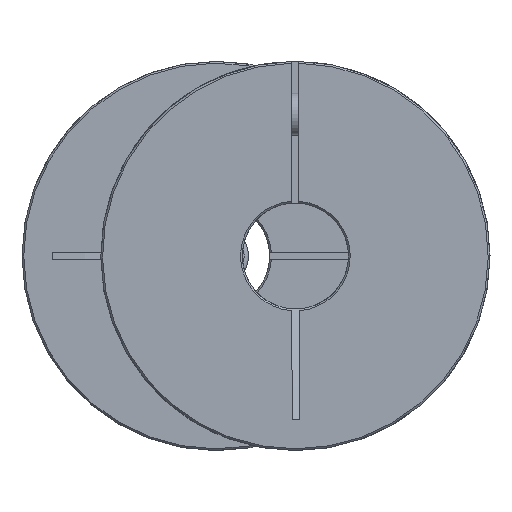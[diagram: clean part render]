
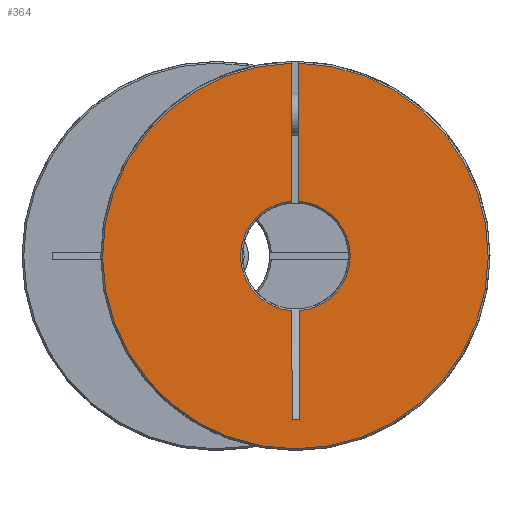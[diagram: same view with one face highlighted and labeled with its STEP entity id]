
A CAD part, left-side view. The second image highlights one B-rep face of the part: STEP entity #364.
In plain terms, the highlighted planar face has unit normal (-1, 0, 0).
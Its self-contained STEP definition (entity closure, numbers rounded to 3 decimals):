
#364 = ADVANCED_FACE( 'NONE', ( #655 ), #656, .F. );
#655 = FACE_OUTER_BOUND( '', #874, .T. );
#656 = PLANE( '', #875 );
#874 = EDGE_LOOP( '', ( #1204, #1205, #1206, #1207, #1208, #1209, #1210, #1211 ) );
#875 = AXIS2_PLACEMENT_3D( '', #1212, #1213, #1214 );
#1204 = ORIENTED_EDGE( '', *, *, #1482, .T. );
#1205 = ORIENTED_EDGE( '', *, *, #1488, .T. );
#1206 = ORIENTED_EDGE( '', *, *, #1489, .T. );
#1207 = ORIENTED_EDGE( '', *, *, #1490, .T. );
#1208 = ORIENTED_EDGE( '', *, *, #1491, .F. );
#1209 = ORIENTED_EDGE( '', *, *, #1492, .T. );
#1210 = ORIENTED_EDGE( '', *, *, #1484, .F. );
#1211 = ORIENTED_EDGE( '', *, *, #1493, .T. );
#1212 = CARTESIAN_POINT( '', ( 0., 15., 0. ) );
#1213 = DIRECTION( '', ( 1., 0., 0. ) );
#1214 = DIRECTION( '', ( 0., 1., 0. ) );
#1482 = EDGE_CURVE( 'NONE', #1669, #1667, #1670, .T. );
#1484 = EDGE_CURVE( 'NONE', #1672, #1673, #1674, .F. );
#1488 = EDGE_CURVE( 'NONE', #1667, #1680, #1681, .T. );
#1489 = EDGE_CURVE( 'NONE', #1680, #1682, #1683, .T. );
#1490 = EDGE_CURVE( 'NONE', #1682, #1684, #1685, .F. );
#1491 = EDGE_CURVE( 'NONE', #1686, #1684, #1687, .F. );
#1492 = EDGE_CURVE( 'NONE', #1686, #1673, #1688, .T. );
#1493 = EDGE_CURVE( 'NONE', #1672, #1669, #1689, .T. );
#1667 = VERTEX_POINT( 'NONE', #1820 );
#1669 = VERTEX_POINT( 'NONE', #1825 );
#1670 = LINE( '', #1826, #1827 );
#1672 = VERTEX_POINT( 'NONE', #1829 );
#1673 = VERTEX_POINT( 'NONE', #1830 );
#1674 = LINE( '', #1831, #1832 );
#1680 = VERTEX_POINT( 'NONE', #1842 );
#1681 = CIRCLE( '', #1843, 15.5 );
#1682 = VERTEX_POINT( 'NONE', #1844 );
#1683 = LINE( '', #1845, #1846 );
#1684 = VERTEX_POINT( 'NONE', #1847 );
#1685 = CIRCLE( '', #1848, 54.5 );
#1686 = VERTEX_POINT( 'NONE', #1849 );
#1687 = LINE( '', #1850, #1851 );
#1688 = CIRCLE( '', #1852, 15.5 );
#1689 = LINE( '', #1853, #1854 );
#1820 = CARTESIAN_POINT( '', ( 0., 15.468, 1. ) );
#1825 = CARTESIAN_POINT( '', ( 0., 46.303, 1. ) );
#1826 = CARTESIAN_POINT( '', ( 0., 15., 1. ) );
#1827 = VECTOR( '', #2213, 1000. );
#1829 = CARTESIAN_POINT( '', ( 0., 46.303, -1. ) );
#1830 = CARTESIAN_POINT( '', ( 0., 15.468, -1. ) );
#1831 = CARTESIAN_POINT( '', ( 0., -15., -1. ) );
#1832 = VECTOR( '', #2217, 1000. );
#1842 = CARTESIAN_POINT( '', ( 0., -15.468, 1. ) );
#1843 = AXIS2_PLACEMENT_3D( '', #2222, #2223, #2224 );
#1844 = CARTESIAN_POINT( '', ( 0., -54.491, 1. ) );
#1845 = CARTESIAN_POINT( '', ( 0., 15., 1. ) );
#1846 = VECTOR( '', #2225, 1000. );
#1847 = CARTESIAN_POINT( '', ( 0., -54.491, -1. ) );
#1848 = AXIS2_PLACEMENT_3D( '', #2226, #2227, #2228 );
#1849 = CARTESIAN_POINT( '', ( 0., -15.468, -1. ) );
#1850 = CARTESIAN_POINT( '', ( 0., -15., -1. ) );
#1851 = VECTOR( '', #2229, 1000. );
#1852 = AXIS2_PLACEMENT_3D( '', #2230, #2231, #2232 );
#1853 = CARTESIAN_POINT( '', ( 0., 46.303, -1. ) );
#1854 = VECTOR( '', #2233, 1000. );
#2213 = DIRECTION( '', ( 0., -1., 0. ) );
#2217 = DIRECTION( '', ( 0., 1., 0. ) );
#2222 = CARTESIAN_POINT( '', ( 0., 0., 0. ) );
#2223 = DIRECTION( '', ( 1., 0., 0. ) );
#2224 = DIRECTION( '', ( 0., 0., -1. ) );
#2225 = DIRECTION( '', ( 0., -1., 0. ) );
#2226 = CARTESIAN_POINT( '', ( 0., 0., 0. ) );
#2227 = DIRECTION( '', ( 1., 0., 0. ) );
#2228 = DIRECTION( '', ( 0., 0., -1. ) );
#2229 = DIRECTION( '', ( 0., 1., 0. ) );
#2230 = CARTESIAN_POINT( '', ( 0., 0., 0. ) );
#2231 = DIRECTION( '', ( 1., 0., 0. ) );
#2232 = DIRECTION( '', ( 0., 0., -1. ) );
#2233 = DIRECTION( '', ( 0., 0., 1. ) );
